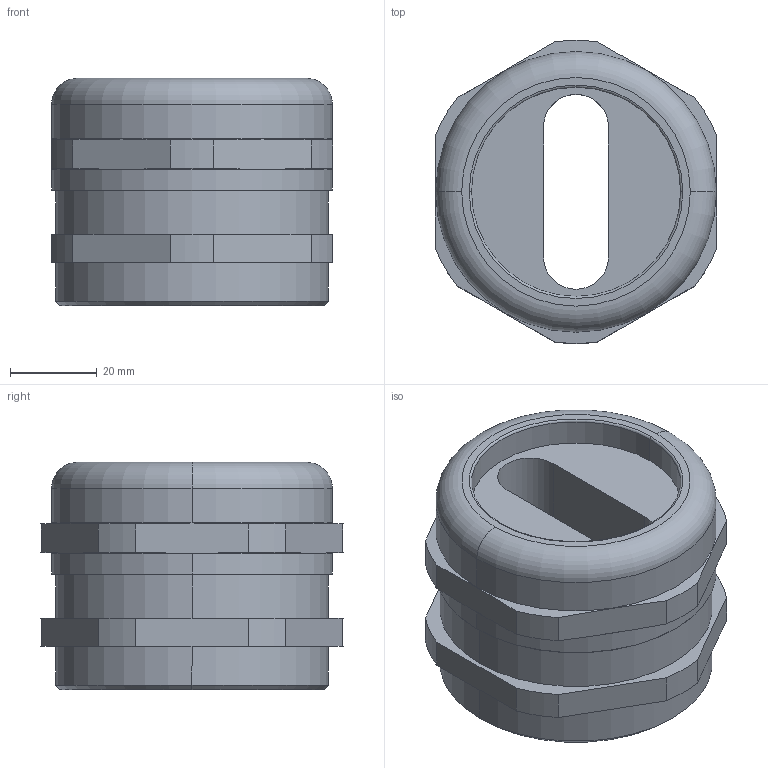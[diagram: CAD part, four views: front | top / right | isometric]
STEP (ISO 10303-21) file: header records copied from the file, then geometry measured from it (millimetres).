
FILE_DESCRIPTION (( 'STEP AP203' ), '1' );
FILE_NAME ('50.663 MFK1.STEP', '2005-11-02T08:38:53', ( ' ' ), ( '' ), 'SwSTEP 2.0', 'SolidWorks 2005278', '' );
FILE_SCHEMA (( 'CONFIG_CONTROL_DESIGN' ));
Length unit declared in the file: millimetre
Products named in the file (1): 50.663 MFK1
Bounding box: 65 x 69.92 x 52.5 mm (x, y, z)
Volume: 95762 mm3; surface area: 24067.7 mm2
Topology: 1 solids, 1 shells, 96 faces, 246 edges, 160 vertices
Faces by surface type: plane 58, cylinder 26, cone 8, torus 4
Entity records: 3003 total; most frequent: CARTESIAN_POINT 559, ORIENTED_EDGE 492, DIRECTION 488, EDGE_CURVE 246, VECTOR 166, LINE 166, AXIS2_PLACEMENT_3D 161, VERTEX_POINT 160
